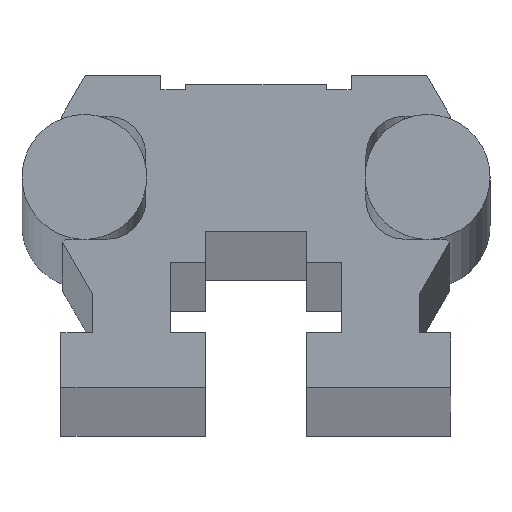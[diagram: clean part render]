
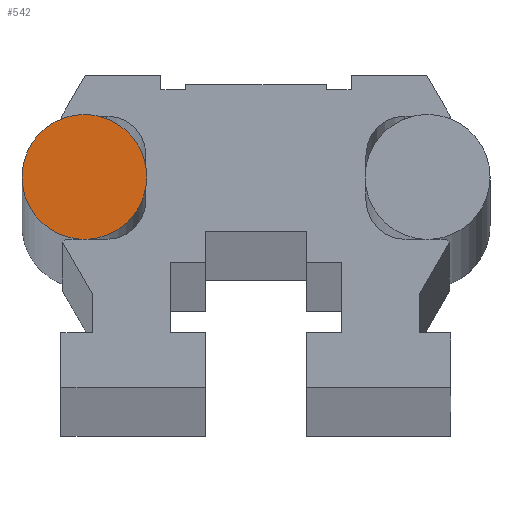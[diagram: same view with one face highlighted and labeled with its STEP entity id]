
A CAD part, top view. The second image highlights one B-rep face of the part: STEP entity #542.
In plain terms, the highlighted planar face has unit normal (0, 0, 1).
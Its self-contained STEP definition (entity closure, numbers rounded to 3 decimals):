
#541 = EDGE_CURVE ( 'NONE', #2054, #2025, #982, .T. ) ;
#542 = ADVANCED_FACE ( 'NONE', ( #977 ), #976, .T. ) ;
#543 = EDGE_LOOP ( 'NONE', ( #544, #545, #546, #547, #548, #549, #550 ) ) ;
#544 = ORIENTED_EDGE ( 'NONE', *, *, #2022, .T. ) ;
#545 = ORIENTED_EDGE ( 'NONE', *, *, #570, .T. ) ;
#546 = ORIENTED_EDGE ( 'NONE', *, *, #2056, .F. ) ;
#547 = ORIENTED_EDGE ( 'NONE', *, *, #541, .T. ) ;
#548 = ORIENTED_EDGE ( 'NONE', *, *, #2020, .T. ) ;
#549 = ORIENTED_EDGE ( 'NONE', *, *, #561, .T. ) ;
#550 = ORIENTED_EDGE ( 'NONE', *, *, #2049, .T. ) ;
#561 = EDGE_CURVE ( 'NONE', #2219, #2050, #969, .T. ) ;
#570 = EDGE_CURVE ( 'NONE', #2161, #2057, #958, .T. ) ;
#929 = DIRECTION ( 'NONE',  ( 1., 0., 0. ) ) ;
#930 = DIRECTION ( 'NONE',  ( 0., 0., 1. ) ) ;
#931 = CARTESIAN_POINT ( 'NONE',  ( -11., 13.5, -1.5 ) ) ;
#932 = AXIS2_PLACEMENT_3D ( 'NONE', #931, #930, #929 ) ;
#933 = CIRCLE ( 'NONE', #932, 4. ) ;
#950 = DIRECTION ( 'NONE',  ( 1., 0., 0. ) ) ;
#951 = DIRECTION ( 'NONE',  ( 0., 0., 1. ) ) ;
#952 = CARTESIAN_POINT ( 'NONE',  ( -11., 13.5, -1.5 ) ) ;
#953 = AXIS2_PLACEMENT_3D ( 'NONE', #952, #951, #950 ) ;
#958 = CIRCLE ( 'NONE', #953, 4. ) ;
#961 = DIRECTION ( 'NONE',  ( 1., 0., 0. ) ) ;
#962 = DIRECTION ( 'NONE',  ( 0., 0., 1. ) ) ;
#963 = CARTESIAN_POINT ( 'NONE',  ( -11., 13.5, -1.5 ) ) ;
#964 = AXIS2_PLACEMENT_3D ( 'NONE', #963, #962, #961 ) ;
#969 = CIRCLE ( 'NONE', #964, 4. ) ;
#972 = DIRECTION ( 'NONE',  ( 1., 0., 0. ) ) ;
#973 = DIRECTION ( 'NONE',  ( 0., 0., 1. ) ) ;
#974 = CARTESIAN_POINT ( 'NONE',  ( -11., 13.5, -1.5 ) ) ;
#975 = AXIS2_PLACEMENT_3D ( 'NONE', #974, #973, #972 ) ;
#976 = PLANE ( 'NONE',  #975 ) ;
#977 = FACE_OUTER_BOUND ( 'NONE', #543, .T. ) ;
#978 = DIRECTION ( 'NONE',  ( 1., 0., 0. ) ) ;
#979 = DIRECTION ( 'NONE',  ( 0., 0., 1. ) ) ;
#980 = CARTESIAN_POINT ( 'NONE',  ( -11., 13.5, -1.5 ) ) ;
#981 = AXIS2_PLACEMENT_3D ( 'NONE', #980, #979, #978 ) ;
#982 = CIRCLE ( 'NONE', #981, 4. ) ;
#1051 = CARTESIAN_POINT ( 'NONE',  ( -10.75, 9.508, -1.5 ) ) ;
#1053 = DIRECTION ( 'NONE',  ( 1., 0., 0. ) ) ;
#1054 = DIRECTION ( 'NONE',  ( 0., 0., 1. ) ) ;
#1055 = CARTESIAN_POINT ( 'NONE',  ( -11., 13.5, -1.5 ) ) ;
#1056 = AXIS2_PLACEMENT_3D ( 'NONE', #1055, #1054, #1053 ) ;
#1057 = CIRCLE ( 'NONE', #1056, 4. ) ;
#1058 = CARTESIAN_POINT ( 'NONE',  ( -11.25, 9.508, -1.5 ) ) ;
#1064 = CARTESIAN_POINT ( 'NONE',  ( -7., 13.5, -1.5 ) ) ;
#1065 = DIRECTION ( 'NONE',  ( 1., 0., 0. ) ) ;
#1066 = DIRECTION ( 'NONE',  ( 0., 0., 1. ) ) ;
#1067 = AXIS2_PLACEMENT_3D ( 'NONE', #1073, #1066, #1065 ) ;
#1068 = CIRCLE ( 'NONE', #1067, 4. ) ;
#1073 = CARTESIAN_POINT ( 'NONE',  ( -11., 13.5, -1.5 ) ) ;
#1117 = CARTESIAN_POINT ( 'NONE',  ( -12.324, 17.275, -1.5 ) ) ;
#1118 = DIRECTION ( 'NONE',  ( 1., 0., 0. ) ) ;
#1119 = DIRECTION ( 'NONE',  ( 0., 0., -1. ) ) ;
#1120 = CARTESIAN_POINT ( 'NONE',  ( -11., 13.5, -1.5 ) ) ;
#1121 = AXIS2_PLACEMENT_3D ( 'NONE', #1120, #1119, #1118 ) ;
#1122 = CIRCLE ( 'NONE', #1121, 4. ) ;
#1248 = CARTESIAN_POINT ( 'NONE',  ( -7.05, 14.13, -1.5 ) ) ;
#1305 = CARTESIAN_POINT ( 'NONE',  ( -10.111, 17.4, -1.5 ) ) ;
#1354 = CARTESIAN_POINT ( 'NONE',  ( -7.05, 12.87, -1.5 ) ) ;
#2020 = EDGE_CURVE ( 'NONE', #2025, #2219, #933, .T. ) ;
#2022 = EDGE_CURVE ( 'NONE', #2191, #2161, #1057, .T. ) ;
#2025 = VERTEX_POINT ( 'NONE', #1051 ) ;
#2049 = EDGE_CURVE ( 'NONE', #2050, #2191, #1068, .T. ) ;
#2050 = VERTEX_POINT ( 'NONE', #1064 ) ;
#2054 = VERTEX_POINT ( 'NONE', #1058 ) ;
#2056 = EDGE_CURVE ( 'NONE', #2054, #2057, #1122, .T. ) ;
#2057 = VERTEX_POINT ( 'NONE', #1117 ) ;
#2161 = VERTEX_POINT ( 'NONE', #1305 ) ;
#2191 = VERTEX_POINT ( 'NONE', #1248 ) ;
#2219 = VERTEX_POINT ( 'NONE', #1354 ) ;
